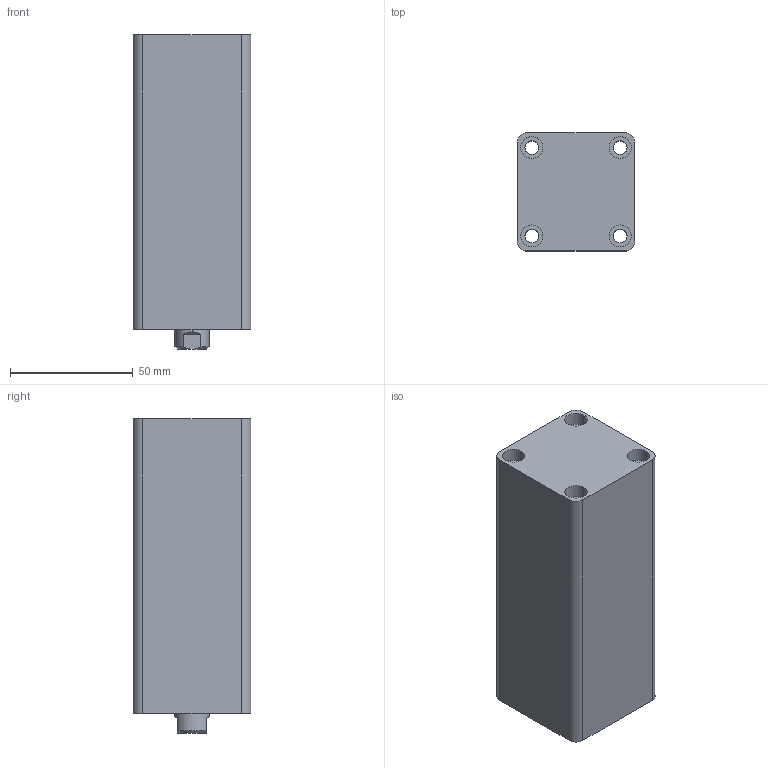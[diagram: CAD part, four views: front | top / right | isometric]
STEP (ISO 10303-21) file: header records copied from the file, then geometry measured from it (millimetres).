
FILE_DESCRIPTION (( 'STEP AP203' ), '1' );
FILE_NAME ('HTB-SD25-75N.STEP', '2019-10-07T06:19:14', ( '微软用户' ), ( '微软中国' ), 'SwSTEP 2.0', 'SolidWorks 2012', '' );
FILE_SCHEMA (( 'CONFIG_CONTROL_DESIGN' ));
Length unit declared in the file: millimetre
Products named in the file (3): HTB-SD25-75掛极; HTB-SD25-75N活塞杆; HTB-SD25-75N
Assembly tree (2 placements, depth 2):
  HTB-SD25-75N
    HTB-SD25-75掛极
    HTB-SD25-75N活塞杆
Bounding box: 48 x 48 x 128 mm (x, y, z)
Volume: 235274.8 mm3; surface area: 51800.8 mm2
Topology: 2 solids, 2 shells, 83 faces, 182 edges, 117 vertices
Faces by surface type: cylinder 42, plane 27, cone 8, torus 6
Entity records: 2653 total; most frequent: DIRECTION 454, CARTESIAN_POINT 429, ORIENTED_EDGE 360, AXIS2_PLACEMENT_3D 194, EDGE_CURVE 180, VERTEX_POINT 117, EDGE_LOOP 107, CIRCLE 106
